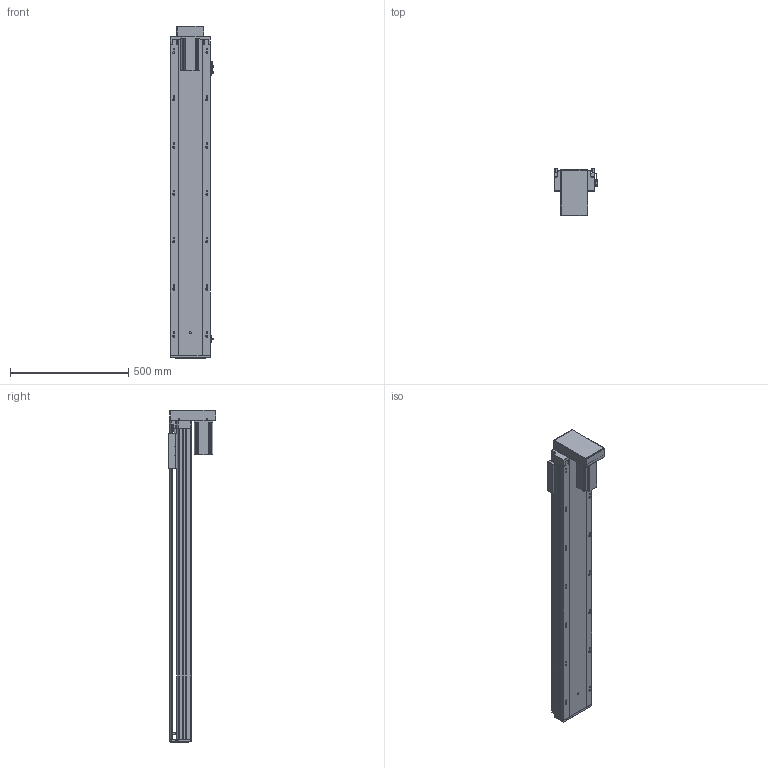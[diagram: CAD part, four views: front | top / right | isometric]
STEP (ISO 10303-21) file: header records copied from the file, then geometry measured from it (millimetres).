
FILE_DESCRIPTION (( 'STEP AP203' ), '1' );
FILE_NAME ('RY170-L2510-300-BK.SLDASM_1100.step', '2021-03-12T08:57:22', ( '盈信电脑' ), ( '东莞市道滘镇水果街19号' ), 'SwSTEP 2.0', 'SolidWorks 2012', '' );
FILE_SCHEMA (( 'CONFIG_CONTROL_DESIGN' ));
Products named in the file (14): RY170-300倰第菁釱-BK_1100; 改造-RY170铝滑块25丝杆螺母; 怢湛750W萇儂ㄗ80遺ㄘ; RY170-狟殏750W萇儂傷; RY170-L2510-300-BK.SLDASM_1100; RY170狟殏萇儂欶; RY170-狟殏萇儂假蚾啣; RY170转折电机端支撑座(7004); 覜茼ん672; 滅袉蝶18-20; RY170外置感应片(200共用）; 滅袉蝶18-10; RY170-300倰第裔啣-BK_1100; RY170綴裔啣
Assembly tree (15 placements, depth 3):
  RY170-L2510-300-BK.SLDASM_1100
    RY170-300倰第菁釱-BK_1100
    改造-RY170铝滑块25丝杆螺母
    RY170-300倰第裔啣-BK_1100
    RY170綴裔啣
    覜茼ん672  x3
    RY170外置感应片(200共用）
    滅袉蝶18-20
    滅袉蝶18-10
    RY170转折电机端支撑座(7004)
    RY170-狟殏750W萇儂傷
      RY170-狟殏萇儂假蚾啣
      RY170狟殏萇儂欶
      怢湛750W萇儂ㄗ80遺ㄘ
Bounding box: 183.7 x 200.8 x 1404.5 mm (x, y, z)
Volume: 7616797.1 mm3; surface area: 2382451.4 mm2
Topology: 14 solids, 14 shells, 2172 faces, 6209 edges, 3976 vertices
Faces by surface type: plane 1080, cylinder 883, cone 190, bspline 19
Entity records: 69818 total; most frequent: CARTESIAN_POINT 16611, ORIENTED_EDGE 11130, DIRECTION 10337, EDGE_CURVE 5565, VERTEX_POINT 3656, LINE 3457, VECTOR 3457, AXIS2_PLACEMENT_3D 3440
